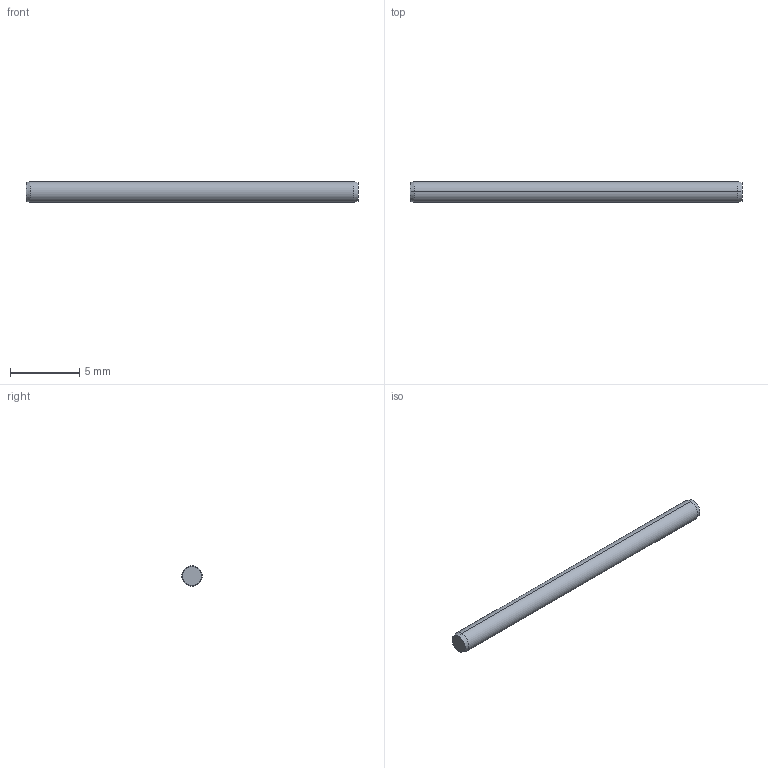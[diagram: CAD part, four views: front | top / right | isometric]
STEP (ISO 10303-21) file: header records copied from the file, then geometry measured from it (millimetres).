
FILE_DESCRIPTION (( 'STEP AP203' ), '1' );
FILE_NAME ('P1206.015-024.step', '2017-06-14T07:55:06', ( 'User' ), ( '' ), 'SwSTEP 2.0', 'SolidWorks 2009', '' );
FILE_SCHEMA (( 'CONFIG_CONTROL_DESIGN' ));
Length unit declared in the file: millimetre
Products named in the file (1): P1206.015-024
Bounding box: 24 x 1.5 x 1.5 mm (x, y, z)
Volume: 42.3 mm3; surface area: 115.9 mm2
Topology: 1 solids, 1 shells, 8 faces, 14 edges, 8 vertices
Faces by surface type: cone 4, cylinder 2, plane 2
Entity records: 271 total; most frequent: DIRECTION 40, CARTESIAN_POINT 31, ORIENTED_EDGE 28, AXIS2_PLACEMENT_3D 17, EDGE_CURVE 14, PERSON_AND_ORGANIZATION 8, CIRCLE 8, FACE_OUTER_BOUND 8
